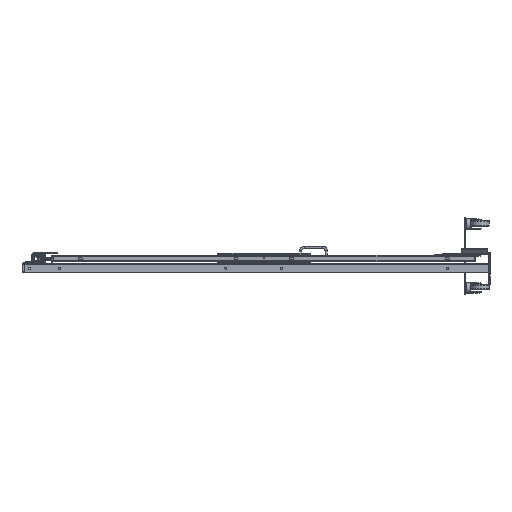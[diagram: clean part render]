
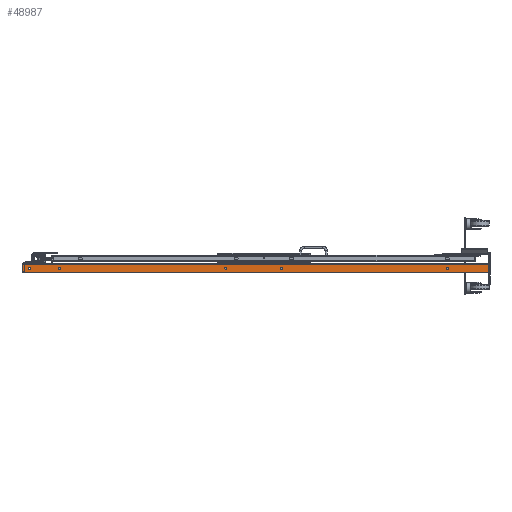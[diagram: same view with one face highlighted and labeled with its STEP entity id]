
A CAD part, left-side view. The second image highlights one B-rep face of the part: STEP entity #48987.
In plain terms, the highlighted planar face has unit normal (-1, 0, 0) as drawn and (0, -1, 0) by its records, which use the part's own axes.
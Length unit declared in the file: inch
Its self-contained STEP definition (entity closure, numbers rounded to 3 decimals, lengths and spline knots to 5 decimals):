
#226 = DIRECTION ( 'NONE',  ( 1., 0., 0. ) ) ;
#1371 = CARTESIAN_POINT ( 'NONE',  ( 0., -1., -48.75 ) ) ;
#1509 = DIRECTION ( 'NONE',  ( 0., -1., 0. ) ) ;
#2493 = EDGE_LOOP ( 'NONE', ( #29891, #72641, #13562, #7720 ) ) ;
#3761 = ORIENTED_EDGE ( 'NONE', *, *, #75211, .F. ) ;
#6871 = CARTESIAN_POINT ( 'NONE',  ( 0.8506, -1., -50.5 ) ) ;
#7187 = VECTOR ( 'NONE', #77110, 39.37008 ) ;
#7655 = DIRECTION ( 'NONE',  ( 0., 0., 1. ) ) ;
#7720 = ORIENTED_EDGE ( 'NONE', *, *, #58641, .T. ) ;
#12349 = DIRECTION ( 'NONE',  ( 0., 1., 0. ) ) ;
#13562 = ORIENTED_EDGE ( 'NONE', *, *, #29214, .F. ) ;
#13640 = FACE_BOUND ( 'NONE', #28834, .T. ) ;
#14209 = VECTOR ( 'NONE', #57893, 39.37008 ) ;
#17116 = LINE ( 'NONE', #77537, #7187 ) ;
#17175 = CARTESIAN_POINT ( 'NONE',  ( 0.8506, -1., 50.5 ) ) ;
#17587 = ORIENTED_EDGE ( 'NONE', *, *, #56023, .F. ) ;
#17599 = LINE ( 'NONE', #17175, #20740 ) ;
#17977 = DIRECTION ( 'NONE',  ( 0., 0., 1. ) ) ;
#18824 = CARTESIAN_POINT ( 'NONE',  ( 0., -1., -6.5 ) ) ;
#18877 = FACE_OUTER_BOUND ( 'NONE', #2493, .T. ) ;
#19033 = CIRCLE ( 'NONE', #44025, 0.25 ) ;
#20740 = VECTOR ( 'NONE', #57628, 39.37008 ) ;
#23419 = EDGE_LOOP ( 'NONE', ( #17587 ) ) ;
#24987 = FACE_BOUND ( 'NONE', #23419, .T. ) ;
#28574 = DIRECTION ( 'NONE',  ( 0., 0., 1. ) ) ;
#28834 = EDGE_LOOP ( 'NONE', ( #3761 ) ) ;
#29214 = EDGE_CURVE ( 'NONE', #52906, #68721, #52879, .T. ) ;
#29891 = ORIENTED_EDGE ( 'NONE', *, *, #71864, .T. ) ;
#31334 = EDGE_CURVE ( 'NONE', #68721, #43443, #17599, .T. ) ;
#31506 = CARTESIAN_POINT ( 'NONE',  ( -0.8506, -1., 50.5 ) ) ;
#32306 = DIRECTION ( 'NONE',  ( 0., -1., 0. ) ) ;
#32790 = FACE_BOUND ( 'NONE', #40701, .T. ) ;
#34086 = AXIS2_PLACEMENT_3D ( 'NONE', #38857, #32306, #17977 ) ;
#34954 = VERTEX_POINT ( 'NONE', #74072 ) ;
#35396 = CARTESIAN_POINT ( 'NONE',  ( -0.8506, -1., 50.5 ) ) ;
#35439 = CARTESIAN_POINT ( 'NONE',  ( 0., -1., 41.5 ) ) ;
#38857 = CARTESIAN_POINT ( 'NONE',  ( 0., -1., -49. ) ) ;
#39267 = ORIENTED_EDGE ( 'NONE', *, *, #76786, .F. ) ;
#40286 = CARTESIAN_POINT ( 'NONE',  ( 0., -1., -42.5 ) ) ;
#40701 = EDGE_LOOP ( 'NONE', ( #39267 ) ) ;
#41975 = CARTESIAN_POINT ( 'NONE',  ( -0.8506, -1., -50.5 ) ) ;
#42855 = CARTESIAN_POINT ( 'NONE',  ( 0.8506, -1., 50.5 ) ) ;
#42906 = VERTEX_POINT ( 'NONE', #71080 ) ;
#43443 = VERTEX_POINT ( 'NONE', #6871 ) ;
#44025 = AXIS2_PLACEMENT_3D ( 'NONE', #40286, #80265, #7655 ) ;
#44944 = DIRECTION ( 'NONE',  ( 0., -1., 0. ) ) ;
#45626 = EDGE_LOOP ( 'NONE', ( #65176 ) ) ;
#46586 = EDGE_CURVE ( 'NONE', #42906, #42906, #70861, .T. ) ;
#47443 = ORIENTED_EDGE ( 'NONE', *, *, #46586, .F. ) ;
#48987 = ADVANCED_FACE ( 'NONE', ( #32790, #59317, #51957, #13640, #24987, #18877 ), #64560, .F. ) ;
#49067 = EDGE_LOOP ( 'NONE', ( #47443 ) ) ;
#50031 = AXIS2_PLACEMENT_3D ( 'NONE', #66398, #61157, #28574 ) ;
#51957 = FACE_BOUND ( 'NONE', #49067, .T. ) ;
#52021 = CARTESIAN_POINT ( 'NONE',  ( -0.8506, -1., 50.5 ) ) ;
#52879 = LINE ( 'NONE', #52021, #64132 ) ;
#52906 = VERTEX_POINT ( 'NONE', #35396 ) ;
#54145 = DIRECTION ( 'NONE',  ( 0., 0., 1. ) ) ;
#56023 = EDGE_CURVE ( 'NONE', #34954, #34954, #19033, .T. ) ;
#56734 = VERTEX_POINT ( 'NONE', #76178 ) ;
#57628 = DIRECTION ( 'NONE',  ( 0., 0., -1. ) ) ;
#57893 = DIRECTION ( 'NONE',  ( 1., 0., 0. ) ) ;
#58033 = DIRECTION ( 'NONE',  ( 0., 0., 1. ) ) ;
#58641 = EDGE_CURVE ( 'NONE', #52906, #56734, #17116, .T. ) ;
#59317 = FACE_BOUND ( 'NONE', #45626, .T. ) ;
#60524 = VERTEX_POINT ( 'NONE', #67476 ) ;
#60945 = VERTEX_POINT ( 'NONE', #1371 ) ;
#61157 = DIRECTION ( 'NONE',  ( 0., -1., 0. ) ) ;
#61981 = LINE ( 'NONE', #41975, #14209 ) ;
#62800 = CIRCLE ( 'NONE', #68339, 0.25 ) ;
#64034 = CARTESIAN_POINT ( 'NONE',  ( 0., -1., 41.75 ) ) ;
#64105 = EDGE_CURVE ( 'NONE', #77063, #77063, #62800, .T. ) ;
#64132 = VECTOR ( 'NONE', #226, 39.37008 ) ;
#64314 = CIRCLE ( 'NONE', #75406, 0.25 ) ;
#64560 = PLANE ( 'NONE',  #68727 ) ;
#64927 = DIRECTION ( 'NONE',  ( 0., 0., 1. ) ) ;
#65176 = ORIENTED_EDGE ( 'NONE', *, *, #64105, .F. ) ;
#66398 = CARTESIAN_POINT ( 'NONE',  ( 0., -1., 5.5 ) ) ;
#67476 = CARTESIAN_POINT ( 'NONE',  ( 0., -1., -6.25 ) ) ;
#68339 = AXIS2_PLACEMENT_3D ( 'NONE', #35439, #1509, #54145 ) ;
#68721 = VERTEX_POINT ( 'NONE', #42855 ) ;
#68727 = AXIS2_PLACEMENT_3D ( 'NONE', #31506, #12349, #58033 ) ;
#70861 = CIRCLE ( 'NONE', #50031, 0.25 ) ;
#71080 = CARTESIAN_POINT ( 'NONE',  ( 0., -1., 5.75 ) ) ;
#71864 = EDGE_CURVE ( 'NONE', #56734, #43443, #61981, .T. ) ;
#72641 = ORIENTED_EDGE ( 'NONE', *, *, #31334, .F. ) ;
#74072 = CARTESIAN_POINT ( 'NONE',  ( 0., -1., -42.25 ) ) ;
#75211 = EDGE_CURVE ( 'NONE', #60524, #60524, #64314, .T. ) ;
#75406 = AXIS2_PLACEMENT_3D ( 'NONE', #18824, #44944, #64927 ) ;
#76178 = CARTESIAN_POINT ( 'NONE',  ( -0.8506, -1., -50.5 ) ) ;
#76786 = EDGE_CURVE ( 'NONE', #60945, #60945, #85482, .T. ) ;
#77063 = VERTEX_POINT ( 'NONE', #64034 ) ;
#77110 = DIRECTION ( 'NONE',  ( 0., 0., -1. ) ) ;
#77537 = CARTESIAN_POINT ( 'NONE',  ( -0.8506, -1., 50.5 ) ) ;
#80265 = DIRECTION ( 'NONE',  ( 0., -1., 0. ) ) ;
#85482 = CIRCLE ( 'NONE', #34086, 0.25 ) ;
